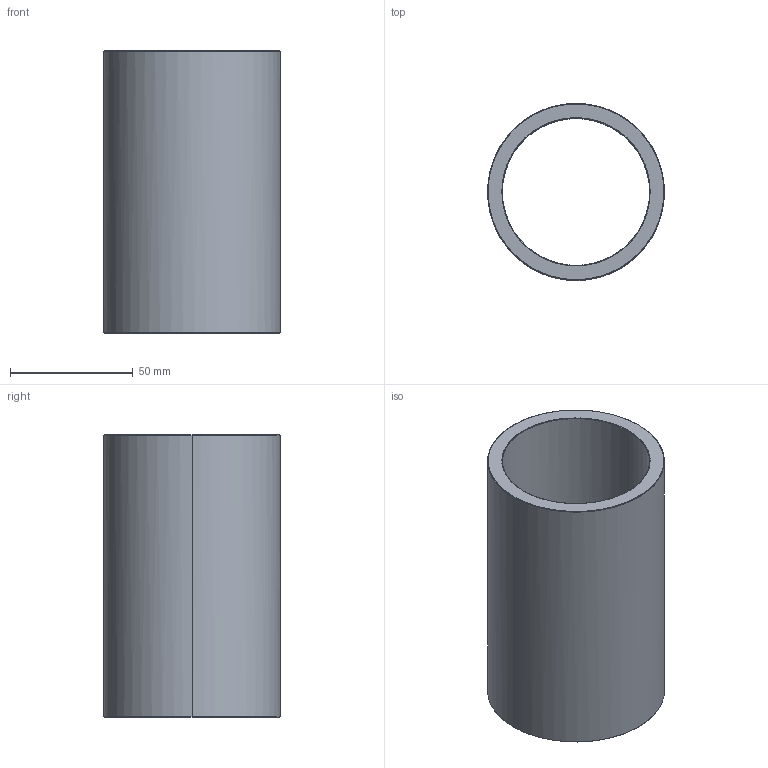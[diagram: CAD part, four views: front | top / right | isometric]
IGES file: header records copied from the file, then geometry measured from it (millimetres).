
Start section: Write IGES format                                    datakit 2008 (c)
Global section: file name: Unknown; native system: DATAKIT Converter; preprocessor: Unknown; author: Unknown; organization: Unknown; date: 950613.180003; units: millimetre
Bounding box: 72 x 71.97 x 115 mm (x, y, z)
Surface area: 50080.4 mm2 (no closed solid volume)
Topology: 0 solids, 0 shells, 14 faces, 56 edges, 56 vertices
Faces by surface type: revolution 12, bspline 2
